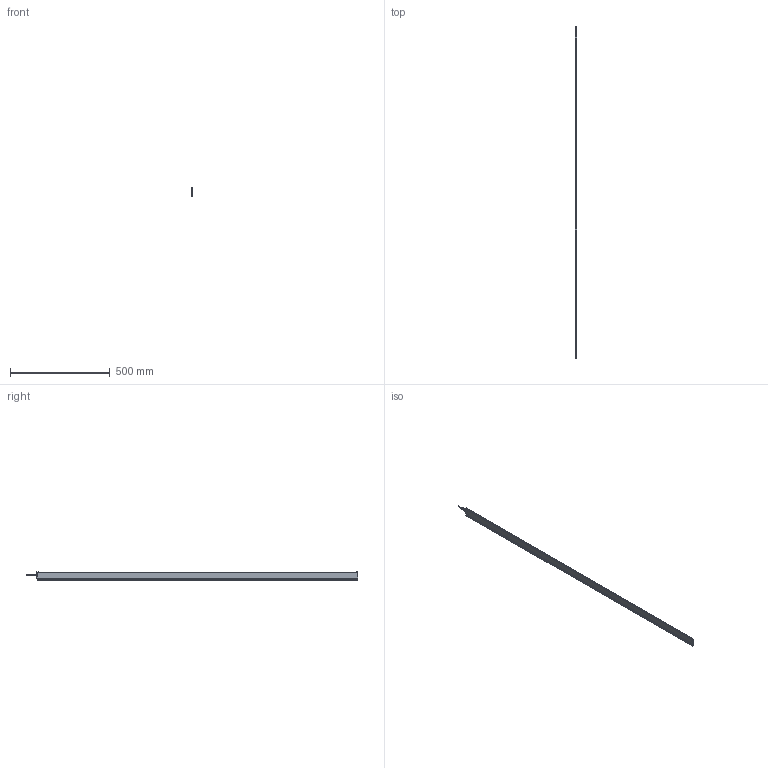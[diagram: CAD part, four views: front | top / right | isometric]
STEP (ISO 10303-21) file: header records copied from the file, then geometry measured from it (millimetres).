
FILE_DESCRIPTION (( 'STEP AP214' ), '1' );
FILE_NAME ('ILG-L-K2-1610mm.STEP', '2017-07-11T08:26:11', ( '' ), ( '' ), 'SwSTEP 2.0', 'SolidWorks 2016', '' );
FILE_SCHEMA (( 'AUTOMOTIVE_DESIGN' ));
Length unit declared in the file: millimetre
Products named in the file (1): ILG-L-K2-1610mm
Bounding box: 9 x 1664.5 x 40.71 mm (x, y, z)
Surface area: 319048.3 mm2 (no closed solid volume)
Topology: 0 solids, 13 shells, 679 faces, 1780 edges, 1131 vertices
Faces by surface type: cylinder 286, plane 255, cone 90, bspline 32, torus 16
Entity records: 30532 total; most frequent: CARTESIAN_POINT 6477, ORIENTED_EDGE 3513, DIRECTION 3392, EDGE_CURVE 1764, AXIS2_PLACEMENT_3D 1295, VERTEX_POINT 1131, VECTOR 802, LINE 802
